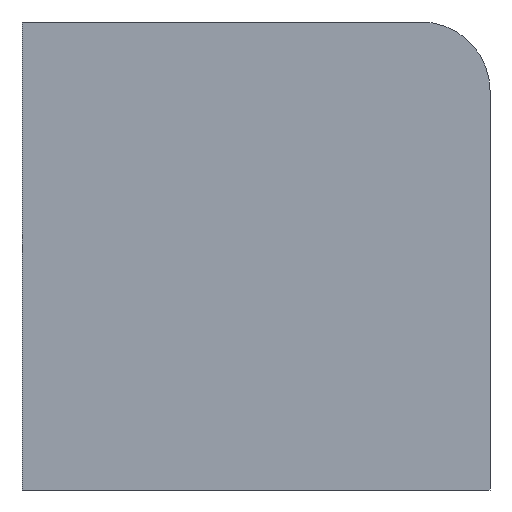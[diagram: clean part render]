
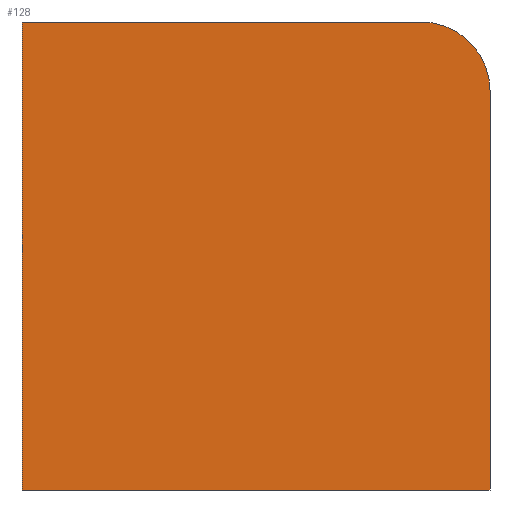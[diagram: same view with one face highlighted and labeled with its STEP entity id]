
A CAD part, front view. The second image highlights one B-rep face of the part: STEP entity #128.
In plain terms, the highlighted planar face has unit normal (0, -1, 0).
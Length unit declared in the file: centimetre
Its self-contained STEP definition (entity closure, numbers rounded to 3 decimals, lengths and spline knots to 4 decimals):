
#7 = CARTESIAN_POINT ( 'NONE',  ( 0., 0., 1000. ) ) ;
#15 = AXIS2_PLACEMENT_3D ( 'NONE', #295, #145, #448 ) ;
#17 = PLANE ( 'NONE',  #28 ) ;
#23 = LINE ( 'NONE', #424, #174 ) ;
#28 = AXIS2_PLACEMENT_3D ( 'NONE', #340, #530, #129 ) ;
#69 = CARTESIAN_POINT ( 'NONE',  ( 1000., 0., 853.1416 ) ) ;
#95 = LINE ( 'NONE', #552, #120 ) ;
#120 = VECTOR ( 'NONE', #455, 100. ) ;
#128 = ADVANCED_FACE ( 'NONE', ( #281 ), #17, .F. ) ;
#129 = DIRECTION ( 'NONE',  ( 0., 0., 1. ) ) ;
#143 = VECTOR ( 'NONE', #645, 100. ) ;
#145 = DIRECTION ( 'NONE',  ( 0., -1., 0. ) ) ;
#146 = ORIENTED_EDGE ( 'NONE', *, *, #618, .F. ) ;
#161 = LINE ( 'NONE', #452, #143 ) ;
#169 = CARTESIAN_POINT ( 'NONE',  ( 0., 0., 1000. ) ) ;
#174 = VECTOR ( 'NONE', #471, 100. ) ;
#209 = VERTEX_POINT ( 'NONE', #287 ) ;
#255 = VERTEX_POINT ( 'NONE', #286 ) ;
#259 = VERTEX_POINT ( 'NONE', #478 ) ;
#269 = EDGE_CURVE ( 'NONE', #549, #209, #23, .T. ) ;
#281 = FACE_OUTER_BOUND ( 'NONE', #643, .T. ) ;
#286 = CARTESIAN_POINT ( 'NONE',  ( 853.1416, 0., 1000. ) ) ;
#287 = CARTESIAN_POINT ( 'NONE',  ( 0., 0., 0. ) ) ;
#295 = CARTESIAN_POINT ( 'NONE',  ( 853.1416, 0., 853.1416 ) ) ;
#340 = CARTESIAN_POINT ( 'NONE',  ( 0., 0., 1000. ) ) ;
#353 = ORIENTED_EDGE ( 'NONE', *, *, #363, .F. ) ;
#363 = EDGE_CURVE ( 'NONE', #549, #255, #468, .T. ) ;
#386 = VERTEX_POINT ( 'NONE', #69 ) ;
#396 = ORIENTED_EDGE ( 'NONE', *, *, #269, .T. ) ;
#424 = CARTESIAN_POINT ( 'NONE',  ( 0., 0., 1000. ) ) ;
#448 = DIRECTION ( 'NONE',  ( 0., 0., 1. ) ) ;
#452 = CARTESIAN_POINT ( 'NONE',  ( 1000., 0., 1000. ) ) ;
#455 = DIRECTION ( 'NONE',  ( 1., 0., 0. ) ) ;
#465 = VECTOR ( 'NONE', #562, 100. ) ;
#468 = LINE ( 'NONE', #169, #465 ) ;
#471 = DIRECTION ( 'NONE',  ( 0., 0., -1. ) ) ;
#478 = CARTESIAN_POINT ( 'NONE',  ( 1000., 0., 0. ) ) ;
#530 = DIRECTION ( 'NONE',  ( 0., 1., 0. ) ) ;
#549 = VERTEX_POINT ( 'NONE', #7 ) ;
#552 = CARTESIAN_POINT ( 'NONE',  ( 0., 0., 0. ) ) ;
#555 = EDGE_CURVE ( 'NONE', #209, #259, #95, .T. ) ;
#562 = DIRECTION ( 'NONE',  ( 1., 0., 0. ) ) ;
#563 = EDGE_CURVE ( 'NONE', #386, #255, #609, .T. ) ;
#592 = ORIENTED_EDGE ( 'NONE', *, *, #555, .T. ) ;
#609 = CIRCLE ( 'NONE', #15, 146.8584 ) ;
#618 = EDGE_CURVE ( 'NONE', #386, #259, #161, .T. ) ;
#619 = ORIENTED_EDGE ( 'NONE', *, *, #563, .T. ) ;
#643 = EDGE_LOOP ( 'NONE', ( #146, #619, #353, #396, #592 ) ) ;
#645 = DIRECTION ( 'NONE',  ( 0., 0., -1. ) ) ;
